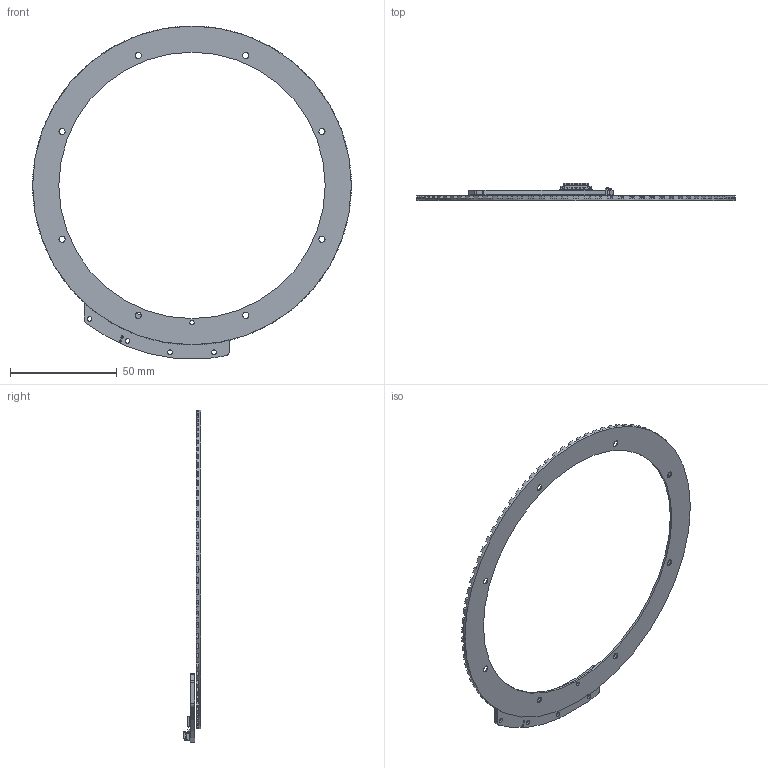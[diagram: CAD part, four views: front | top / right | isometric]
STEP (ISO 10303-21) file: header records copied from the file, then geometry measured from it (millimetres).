
FILE_DESCRIPTION((''),'2;1');
FILE_NAME('SAB150_REV_1_8_ASM','2025-05-06T',('ol'),(''),'PRO/ENGINEER BY PARAMETRIC TECHNOLOGY CORPORATION, 2017170','PRO/ENGINEER BY PARAMETRIC TECHNOLOGY CORPORATION, 2017170','');
FILE_SCHEMA(('CONFIG_CONTROL_DESIGN'));
Products named in the file (71): SAR150; PRT0062_AF0; PRT0063; PRT0064; PRT0065; PRT0066; PRT0067; PRT0068; PRT0069; PRT0070; PRT0071; PRT0072; PRT0073; PRT0074; PRT0075; PRT0076; PRT0077; PRT0078; ASM0042_ASM; ASM0041_ASM; PRT0079; PRT0080; PRT0081; PRT0082; PRT0083; PRT0084; PRT0085; PRT0086; PRT0087; PRT0088; PRT0089; PRT0090; PRT0091; PRT0092; PRT0093; PRT0094; PRT0095; PRT0096; PRT0097; PRT0098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
Assembly tree (70 placements, depth 5):
  SAB150_REV_1_8_ASM
    SAR150
    ASM0040_ASM
      PRT0062_AF0
      ASM0041_ASM
        ASM0042_ASM
          PRT0063
          PRT0064
          PRT0065
          PRT0066
          PRT0067
          PRT0068
          PRT0069
          PRT0070
          PRT0071
          PRT0072
          PRT0073
          PRT0074
          PRT0075
          PRT0076
          PRT0077
          PRT0078
      ASM0043_ASM
        ASM0044_ASM
          PRT0079
          PRT0080
          PRT0081
          PRT0082
          PRT0083
          PRT0084
          PRT0085
          PRT0086
          PRT0087
          PRT0088
          PRT0089
          PRT0090
          PRT0091
          PRT0092
          PRT0093
          PRT0094
          PRT0095
          PRT0096
          PRT0097
          PRT0098
          PRT0099
          PRT0100
          PRT0101
          PRT0102
          PRT0103
          PRT0104
          PRT0105
          PRT0106
          PRT0107
          PRT0108
          PRT0109
          PRT0110
          PRT0111
          PRT0112
          PRT0113
          PRT0114
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Bounding box: 149.6 x 8.25 x 155.8 mm (x, y, z)
Volume: 9940.6 mm3; surface area: 17111.1 mm2
Topology: 65 solids, 65 shells, 1870 faces, 5027 edges, 3312 vertices
Faces by surface type: plane 1278, cylinder 312, extrusion 250, cone 24, bspline 4, sphere 2
Entity records: 69681 total; most frequent: CARTESIAN_POINT 21849, ORIENTED_EDGE 10050, DIRECTION 8894, EDGE_CURVE 5025, VECTOR 3974, LINE 3724, VERTEX_POINT 3312, AXIS2_PLACEMENT_3D 2460
